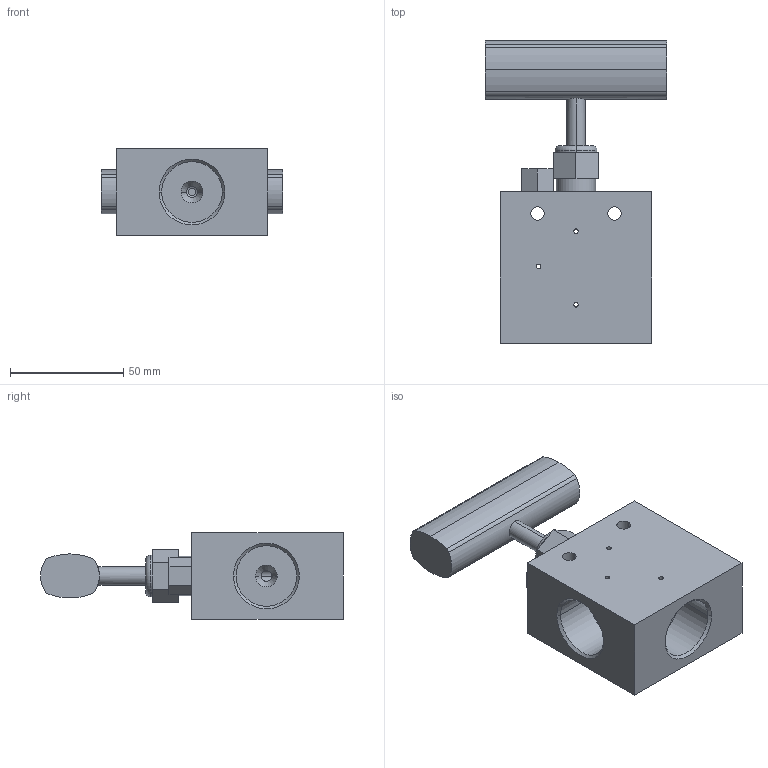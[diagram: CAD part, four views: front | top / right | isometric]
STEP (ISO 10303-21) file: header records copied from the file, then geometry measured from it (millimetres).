
FILE_DESCRIPTION (( 'STEP AP203' ), '1' );
FILE_NAME ('NV30VS09-A-00-00.STEP', '2023-02-27T07:06:54', ( 'USER' ), ( '' ), 'SwSTEP 2.0', 'SolidWorks 2020', '' );
FILE_SCHEMA (( 'CONFIG_CONTROL_DESIGN' ));
Length unit declared in the file: millimetre
Products named in the file (1): NV30VS09-A-00-00
Bounding box: 80 x 133.68 x 38 mm (x, y, z)
Volume: 188653.1 mm3; surface area: 33976.5 mm2
Topology: 1 solids, 1 shells, 94 faces, 226 edges, 142 vertices
Faces by surface type: cylinder 47, plane 29, cone 16, torus 2
Entity records: 3201 total; most frequent: CARTESIAN_POINT 843, DIRECTION 494, ORIENTED_EDGE 452, EDGE_CURVE 226, AXIS2_PLACEMENT_3D 189, VERTEX_POINT 142, EDGE_LOOP 122, VECTOR 116
